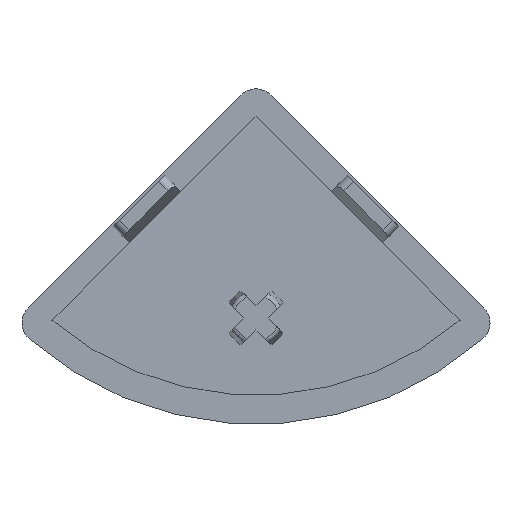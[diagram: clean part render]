
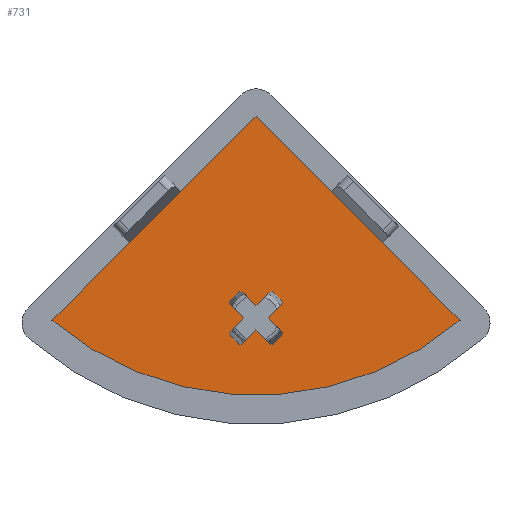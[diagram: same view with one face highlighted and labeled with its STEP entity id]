
A CAD part, front view. The second image highlights one B-rep face of the part: STEP entity #731.
In plain terms, the highlighted planar face has unit normal (0, -1, 0).
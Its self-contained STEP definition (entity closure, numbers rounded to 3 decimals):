
#14 = DIRECTION ( 'NONE',  ( 0., -1., 0. ) ) ;
#23 = CARTESIAN_POINT ( 'NONE',  ( -18.251, 69.745, -0.018 ) ) ;
#51 = VECTOR ( 'NONE', #1344, 1000. ) ;
#58 = CARTESIAN_POINT ( 'NONE',  ( -29.771, 69.745, -11.538 ) ) ;
#63 = CIRCLE ( 'NONE', #1165, 3.6 ) ;
#67 = CARTESIAN_POINT ( 'NONE',  ( -29.771, 69.745, -17.843 ) ) ;
#76 = LINE ( 'NONE', #1307, #51 ) ;
#88 = CARTESIAN_POINT ( 'NONE',  ( -33.247, 69.745, -17.843 ) ) ;
#105 = AXIS2_PLACEMENT_3D ( 'NONE', #859, #952, #2124 ) ;
#110 = AXIS2_PLACEMENT_3D ( 'NONE', #1903, #1950, #1960 ) ;
#122 = AXIS2_PLACEMENT_3D ( 'NONE', #1838, #1847, #1859 ) ;
#128 = VERTEX_POINT ( 'NONE', #1076 ) ;
#147 = CARTESIAN_POINT ( 'NONE',  ( -55.465, 69.745, -14.958 ) ) ;
#176 = DIRECTION ( 'NONE',  ( 0.707, 0., 0.707 ) ) ;
#184 = CARTESIAN_POINT ( 'NONE',  ( -31.509, 69.745, 8.998 ) ) ;
#197 = CARTESIAN_POINT ( 'NONE',  ( -28.964, 69.745, -12.145 ) ) ;
#198 = CARTESIAN_POINT ( 'NONE',  ( -28.357, 69.745, -12.952 ) ) ;
#215 = DIRECTION ( 'NONE',  ( 0., -1., 0. ) ) ;
#218 = CARTESIAN_POINT ( 'NONE',  ( -31.509, 69.745, -14.69 ) ) ;
#234 = DIRECTION ( 'NONE',  ( 0., 1., 0. ) ) ;
#237 = VECTOR ( 'NONE', #2072, 1000. ) ;
#241 = DIRECTION ( 'NONE',  ( 0.707, 0., 0.707 ) ) ;
#243 = EDGE_CURVE ( 'NONE', #1172, #1374, #1661, .T. ) ;
#256 = CARTESIAN_POINT ( 'NONE',  ( -34.662, 69.745, -16.428 ) ) ;
#288 = VERTEX_POINT ( 'NONE', #58 ) ;
#332 = VERTEX_POINT ( 'NONE', #198 ) ;
#339 = CARTESIAN_POINT ( 'NONE',  ( -16.837, 69.745, -1.432 ) ) ;
#355 = AXIS2_PLACEMENT_3D ( 'NONE', #218, #234, #241 ) ;
#358 = DIRECTION ( 'NONE',  ( -0.707, 0., -0.707 ) ) ;
#367 = CARTESIAN_POINT ( 'NONE',  ( -31.509, 69.745, 8.998 ) ) ;
#386 = VECTOR ( 'NONE', #479, 1000. ) ;
#418 = AXIS2_PLACEMENT_3D ( 'NONE', #2045, #2022, #2008 ) ;
#426 = LINE ( 'NONE', #1073, #386 ) ;
#474 = EDGE_CURVE ( 'NONE', #2108, #1508, #842, .T. ) ;
#479 = DIRECTION ( 'NONE',  ( 0.707, 0., 0.707 ) ) ;
#499 = CARTESIAN_POINT ( 'NONE',  ( -31.509, 69.745, -13.276 ) ) ;
#508 = CARTESIAN_POINT ( 'NONE',  ( -46.182, 69.745, -1.432 ) ) ;
#514 = DIRECTION ( 'NONE',  ( -0.707, 0., 0.707 ) ) ;
#543 = ORIENTED_EDGE ( 'NONE', *, *, #1708, .T. ) ;
#556 = CIRCLE ( 'NONE', #418, 3.6 ) ;
#622 = EDGE_CURVE ( 'NONE', #1535, #288, #63, .T. ) ;
#645 = VECTOR ( 'NONE', #819, 1000. ) ;
#665 = CARTESIAN_POINT ( 'NONE',  ( -16.837, 69.745, -1.432 ) ) ;
#679 = VECTOR ( 'NONE', #1494, 1000. ) ;
#716 = LINE ( 'NONE', #1336, #679 ) ;
#731 = ADVANCED_FACE ( 'NONE', ( #786, #2103 ), #1319, .T. ) ;
#747 = EDGE_LOOP ( 'NONE', ( #1870, #1310, #1975 ) ) ;
#786 = FACE_BOUND ( 'NONE', #810, .T. ) ;
#810 = EDGE_LOOP ( 'NONE', ( #1728, #543, #1471, #822, #1666, #1687, #1215, #1505, #1267, #1409, #1127, #1259, #2017 ) ) ;
#815 = VERTEX_POINT ( 'NONE', #1993 ) ;
#819 = DIRECTION ( 'NONE',  ( -0.707, 0., -0.707 ) ) ;
#822 = ORIENTED_EDGE ( 'NONE', *, *, #1528, .T. ) ;
#840 = CARTESIAN_POINT ( 'NONE',  ( -28.357, 69.745, -16.428 ) ) ;
#842 = LINE ( 'NONE', #367, #645 ) ;
#859 = CARTESIAN_POINT ( 'NONE',  ( -31.509, 69.745, -14.69 ) ) ;
#869 = AXIS2_PLACEMENT_3D ( 'NONE', #1609, #14, #1521 ) ;
#876 = VECTOR ( 'NONE', #1228, 1000. ) ;
#895 = VECTOR ( 'NONE', #943, 1000. ) ;
#900 = VECTOR ( 'NONE', #514, 1000. ) ;
#917 = LINE ( 'NONE', #1897, #237 ) ;
#936 = VECTOR ( 'NONE', #358, 1000. ) ;
#942 = EDGE_CURVE ( 'NONE', #1065, #979, #556, .T. ) ;
#943 = DIRECTION ( 'NONE',  ( -0.707, 0., -0.707 ) ) ;
#952 = DIRECTION ( 'NONE',  ( 0., 1., 0. ) ) ;
#965 = LINE ( 'NONE', #665, #895 ) ;
#978 = CIRCLE ( 'NONE', #110, 37. ) ;
#979 = VERTEX_POINT ( 'NONE', #1861 ) ;
#1027 = CIRCLE ( 'NONE', #122, 3.6 ) ;
#1065 = VERTEX_POINT ( 'NONE', #1630 ) ;
#1073 = CARTESIAN_POINT ( 'NONE',  ( -18.251, 69.745, -0.018 ) ) ;
#1076 = CARTESIAN_POINT ( 'NONE',  ( -31.509, 69.745, -16.104 ) ) ;
#1127 = ORIENTED_EDGE ( 'NONE', *, *, #1759, .T. ) ;
#1137 = LINE ( 'NONE', #508, #900 ) ;
#1165 = AXIS2_PLACEMENT_3D ( 'NONE', #1873, #215, #1876 ) ;
#1172 = VERTEX_POINT ( 'NONE', #1467 ) ;
#1205 = LINE ( 'NONE', #339, #936 ) ;
#1215 = ORIENTED_EDGE ( 'NONE', *, *, #2054, .T. ) ;
#1228 = DIRECTION ( 'NONE',  ( 0.707, 0., -0.707 ) ) ;
#1259 = ORIENTED_EDGE ( 'NONE', *, *, #1503, .T. ) ;
#1267 = ORIENTED_EDGE ( 'NONE', *, *, #1632, .T. ) ;
#1303 = CIRCLE ( 'NONE', #355, 3.6 ) ;
#1307 = CARTESIAN_POINT ( 'NONE',  ( -44.767, 69.745, -0.018 ) ) ;
#1310 = ORIENTED_EDGE ( 'NONE', *, *, #1990, .T. ) ;
#1319 = PLANE ( 'NONE',  #869 ) ;
#1336 = CARTESIAN_POINT ( 'NONE',  ( -46.182, 69.745, -1.432 ) ) ;
#1344 = DIRECTION ( 'NONE',  ( 0.707, 0., -0.707 ) ) ;
#1374 = VERTEX_POINT ( 'NONE', #840 ) ;
#1409 = ORIENTED_EDGE ( 'NONE', *, *, #942, .T. ) ;
#1423 = VECTOR ( 'NONE', #176, 1000. ) ;
#1444 = VERTEX_POINT ( 'NONE', #67 ) ;
#1467 = CARTESIAN_POINT ( 'NONE',  ( -30.095, 69.745, -14.69 ) ) ;
#1471 = ORIENTED_EDGE ( 'NONE', *, *, #243, .T. ) ;
#1494 = DIRECTION ( 'NONE',  ( -0.707, 0., 0.707 ) ) ;
#1503 = EDGE_CURVE ( 'NONE', #1633, #288, #1629, .T. ) ;
#1505 = ORIENTED_EDGE ( 'NONE', *, *, #1742, .T. ) ;
#1508 = VERTEX_POINT ( 'NONE', #147 ) ;
#1521 = DIRECTION ( 'NONE',  ( -0.707, 0., -0.707 ) ) ;
#1525 = VERTEX_POINT ( 'NONE', #88 ) ;
#1528 = EDGE_CURVE ( 'NONE', #1374, #1444, #1303, .T. ) ;
#1535 = VERTEX_POINT ( 'NONE', #197 ) ;
#1590 = VERTEX_POINT ( 'NONE', #256 ) ;
#1609 = CARTESIAN_POINT ( 'NONE',  ( -31.509, 69.745, 13.241 ) ) ;
#1626 = EDGE_CURVE ( 'NONE', #128, #1525, #1205, .T. ) ;
#1629 = LINE ( 'NONE', #23, #1423 ) ;
#1630 = CARTESIAN_POINT ( 'NONE',  ( -34.662, 69.745, -12.952 ) ) ;
#1632 = EDGE_CURVE ( 'NONE', #815, #1065, #1137, .T. ) ;
#1633 = VERTEX_POINT ( 'NONE', #499 ) ;
#1661 = LINE ( 'NONE', #1994, #876 ) ;
#1666 = ORIENTED_EDGE ( 'NONE', *, *, #1864, .T. ) ;
#1687 = ORIENTED_EDGE ( 'NONE', *, *, #1626, .T. ) ;
#1708 = EDGE_CURVE ( 'NONE', #332, #1172, #965, .T. ) ;
#1728 = ORIENTED_EDGE ( 'NONE', *, *, #1925, .F. ) ;
#1742 = EDGE_CURVE ( 'NONE', #1590, #815, #426, .T. ) ;
#1759 = EDGE_CURVE ( 'NONE', #979, #1633, #76, .T. ) ;
#1781 = CIRCLE ( 'NONE', #105, 3.6 ) ;
#1825 = CARTESIAN_POINT ( 'NONE',  ( -7.554, 69.745, -14.958 ) ) ;
#1838 = CARTESIAN_POINT ( 'NONE',  ( -31.509, 69.745, -14.69 ) ) ;
#1847 = DIRECTION ( 'NONE',  ( 0., -1., 0. ) ) ;
#1859 = DIRECTION ( 'NONE',  ( 0.707, 0., 0.707 ) ) ;
#1861 = CARTESIAN_POINT ( 'NONE',  ( -33.247, 69.745, -11.538 ) ) ;
#1864 = EDGE_CURVE ( 'NONE', #1444, #128, #716, .T. ) ;
#1870 = ORIENTED_EDGE ( 'NONE', *, *, #1948, .T. ) ;
#1873 = CARTESIAN_POINT ( 'NONE',  ( -31.509, 69.745, -14.69 ) ) ;
#1876 = DIRECTION ( 'NONE',  ( 0.707, 0., 0.707 ) ) ;
#1897 = CARTESIAN_POINT ( 'NONE',  ( -7.554, 69.745, -14.958 ) ) ;
#1903 = CARTESIAN_POINT ( 'NONE',  ( -31.509, 69.745, 13.241 ) ) ;
#1925 = EDGE_CURVE ( 'NONE', #332, #1535, #1027, .T. ) ;
#1932 = VERTEX_POINT ( 'NONE', #1825 ) ;
#1948 = EDGE_CURVE ( 'NONE', #1508, #1932, #978, .T. ) ;
#1950 = DIRECTION ( 'NONE',  ( 0., -1., 0. ) ) ;
#1960 = DIRECTION ( 'NONE',  ( -0.707, 0., -0.707 ) ) ;
#1975 = ORIENTED_EDGE ( 'NONE', *, *, #474, .T. ) ;
#1990 = EDGE_CURVE ( 'NONE', #1932, #2108, #917, .T. ) ;
#1993 = CARTESIAN_POINT ( 'NONE',  ( -32.923, 69.745, -14.69 ) ) ;
#1994 = CARTESIAN_POINT ( 'NONE',  ( -44.767, 69.745, -0.018 ) ) ;
#2008 = DIRECTION ( 'NONE',  ( 0.707, 0., 0.707 ) ) ;
#2017 = ORIENTED_EDGE ( 'NONE', *, *, #622, .F. ) ;
#2022 = DIRECTION ( 'NONE',  ( 0., 1., 0. ) ) ;
#2045 = CARTESIAN_POINT ( 'NONE',  ( -31.509, 69.745, -14.69 ) ) ;
#2054 = EDGE_CURVE ( 'NONE', #1525, #1590, #1781, .T. ) ;
#2072 = DIRECTION ( 'NONE',  ( -0.707, 0., 0.707 ) ) ;
#2103 = FACE_OUTER_BOUND ( 'NONE', #747, .T. ) ;
#2108 = VERTEX_POINT ( 'NONE', #184 ) ;
#2124 = DIRECTION ( 'NONE',  ( 0.707, 0., 0.707 ) ) ;
